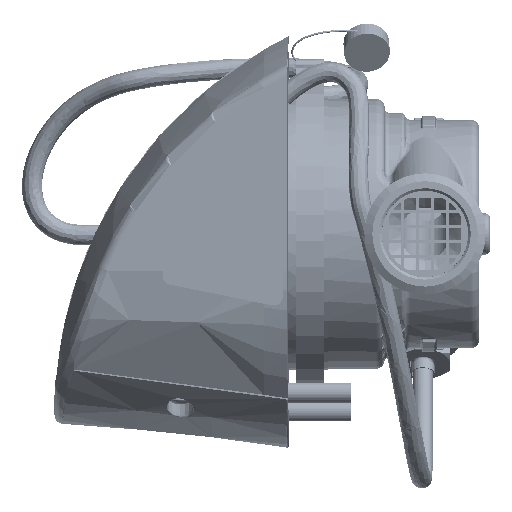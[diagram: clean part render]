
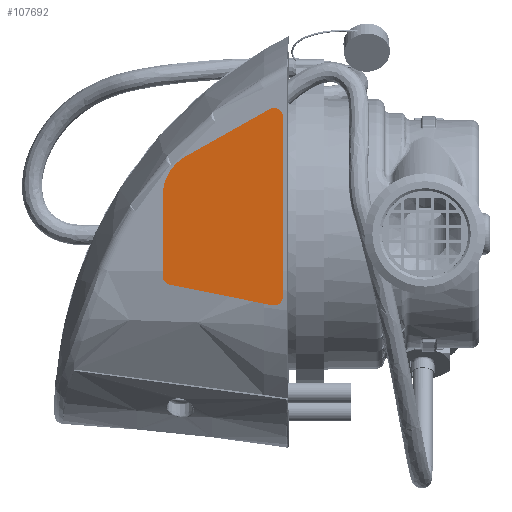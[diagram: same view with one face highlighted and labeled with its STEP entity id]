
A CAD part, left-side view. The second image highlights one B-rep face of the part: STEP entity #107692.
In plain terms, the highlighted planar face has unit normal (-0.995, 0.104, 0).
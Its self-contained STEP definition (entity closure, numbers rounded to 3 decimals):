
#3211 = CARTESIAN_POINT ( 'NONE',  ( -38.431, 47.626, -15.594 ) ) ;
#3502 = DIRECTION ( 'NONE',  ( -0.995, 0.105, 0. ) ) ;
#10259 = EDGE_CURVE ( 'NONE', #190570, #116645, #156012, .T. ) ;
#25447 = CARTESIAN_POINT ( 'NONE',  ( -38.681, 45.245, -13.633 ) ) ;
#36581 = DIRECTION ( 'NONE',  ( 0., 0., 1. ) ) ;
#37037 = ORIENTED_EDGE ( 'NONE', *, *, #180039, .T. ) ;
#37150 = CARTESIAN_POINT ( 'NONE',  ( -35.914, 71.572, -9.122 ) ) ;
#46221 = CIRCLE ( 'NONE', #203092, 10. ) ;
#46988 = CARTESIAN_POINT ( 'NONE',  ( -35.914, 71.572, 8.26 ) ) ;
#48172 = CARTESIAN_POINT ( 'NONE',  ( -36.082, 69.975, -11.083 ) ) ;
#49740 = DIRECTION ( 'NONE',  ( 0., 0., -1. ) ) ;
#51863 = VECTOR ( 'NONE', #273087, 1000. ) ;
#56609 = VERTEX_POINT ( 'NONE', #48172 ) ;
#59841 = EDGE_CURVE ( 'NONE', #116645, #160925, #230360, .T. ) ;
#67554 = AXIS2_PLACEMENT_3D ( 'NONE', #272839, #101354, #250296 ) ;
#70734 = ORIENTED_EDGE ( 'NONE', *, *, #206728, .T. ) ;
#72031 = VERTEX_POINT ( 'NONE', #46988 ) ;
#75050 = CARTESIAN_POINT ( 'NONE',  ( -35.914, 71.572, -9.122 ) ) ;
#81253 = CARTESIAN_POINT ( 'NONE',  ( -38.472, 47.234, -15.633 ) ) ;
#83937 = EDGE_CURVE ( 'NONE', #201308, #151857, #161759, .T. ) ;
#87378 = EDGE_CURVE ( 'NONE', #145840, #56609, #212449, .T. ) ;
#88097 = DIRECTION ( 'NONE',  ( -0.995, 0.105, 0. ) ) ;
#89543 = DIRECTION ( 'NONE',  ( 0., 0., 1. ) ) ;
#93163 = DIRECTION ( 'NONE',  ( -0.102, -0.975, -0.197 ) ) ;
#101354 = DIRECTION ( 'NONE',  ( -0.995, 0.105, 0. ) ) ;
#104401 = LINE ( 'NONE', #37150, #51863 ) ;
#106731 = CARTESIAN_POINT ( 'NONE',  ( -36.45, 66.48, 16.988 ) ) ;
#107692 = ADVANCED_FACE ( 'NONE', ( #216626 ), #109977, .T. ) ;
#108176 = EDGE_LOOP ( 'NONE', ( #70734, #225984, #263126, #37037, #244393, #169724, #274463, #255720, #240986 ) ) ;
#109977 = PLANE ( 'NONE',  #194672 ) ;
#110667 = VECTOR ( 'NONE', #213429, 1000. ) ;
#116645 = VERTEX_POINT ( 'NONE', #246824 ) ;
#128823 = VERTEX_POINT ( 'NONE', #25447 ) ;
#131438 = CIRCLE ( 'NONE', #203162, 2. ) ;
#134018 = LINE ( 'NONE', #263288, #171589 ) ;
#134527 = LINE ( 'NONE', #193463, #207398 ) ;
#141802 = DIRECTION ( 'NONE',  ( -0.995, 0.105, 0. ) ) ;
#145840 = VERTEX_POINT ( 'NONE', #75050 ) ;
#151857 = VERTEX_POINT ( 'NONE', #81253 ) ;
#156012 = CIRCLE ( 'NONE', #178430, 2. ) ;
#158339 = CARTESIAN_POINT ( 'NONE',  ( -38.472, 47.234, 25.516 ) ) ;
#160088 = CARTESIAN_POINT ( 'NONE',  ( -36.123, 69.583, -9.122 ) ) ;
#160925 = VERTEX_POINT ( 'NONE', #186608 ) ;
#161759 = CIRCLE ( 'NONE', #67554, 2. ) ;
#169724 = ORIENTED_EDGE ( 'NONE', *, *, #214569, .T. ) ;
#170366 = CARTESIAN_POINT ( 'NONE',  ( -36.96, 61.627, 8.26 ) ) ;
#171589 = VECTOR ( 'NONE', #93163, 1000. ) ;
#172361 = CARTESIAN_POINT ( 'NONE',  ( -36.96, 61.627, 8.26 ) ) ;
#177754 = CARTESIAN_POINT ( 'NONE',  ( -38.681, 45.245, 25.516 ) ) ;
#178430 = AXIS2_PLACEMENT_3D ( 'NONE', #158339, #249578, #208782 ) ;
#180039 = EDGE_CURVE ( 'NONE', #56609, #201308, #134018, .T. ) ;
#186608 = CARTESIAN_POINT ( 'NONE',  ( -36.45, 66.48, 16.988 ) ) ;
#190570 = VERTEX_POINT ( 'NONE', #177754 ) ;
#191999 = DIRECTION ( 'NONE',  ( 0., 0., 1. ) ) ;
#193463 = CARTESIAN_POINT ( 'NONE',  ( -38.681, 45.245, -13.633 ) ) ;
#194672 = AXIS2_PLACEMENT_3D ( 'NONE', #170366, #256088, #235005 ) ;
#201308 = VERTEX_POINT ( 'NONE', #3211 ) ;
#203092 = AXIS2_PLACEMENT_3D ( 'NONE', #172361, #88097, #191999 ) ;
#203162 = AXIS2_PLACEMENT_3D ( 'NONE', #243524, #3502, #49740 ) ;
#206728 = EDGE_CURVE ( 'NONE', #160925, #72031, #46221, .T. ) ;
#207398 = VECTOR ( 'NONE', #89543, 1000. ) ;
#208782 = DIRECTION ( 'NONE',  ( 0., 0., 1. ) ) ;
#212449 = CIRCLE ( 'NONE', #235540, 2. ) ;
#213429 = DIRECTION ( 'NONE',  ( 0.091, 0.868, -0.488 ) ) ;
#214569 = EDGE_CURVE ( 'NONE', #151857, #128823, #131438, .T. ) ;
#216626 = FACE_OUTER_BOUND ( 'NONE', #108176, .T. ) ;
#225984 = ORIENTED_EDGE ( 'NONE', *, *, #228473, .T. ) ;
#228473 = EDGE_CURVE ( 'NONE', #72031, #145840, #104401, .T. ) ;
#230360 = LINE ( 'NONE', #106731, #110667 ) ;
#235005 = DIRECTION ( 'NONE',  ( 0., 0., 1. ) ) ;
#235540 = AXIS2_PLACEMENT_3D ( 'NONE', #160088, #141802, #36581 ) ;
#237714 = EDGE_CURVE ( 'NONE', #128823, #190570, #134527, .T. ) ;
#240986 = ORIENTED_EDGE ( 'NONE', *, *, #59841, .T. ) ;
#243524 = CARTESIAN_POINT ( 'NONE',  ( -38.472, 47.234, -13.633 ) ) ;
#244393 = ORIENTED_EDGE ( 'NONE', *, *, #83937, .T. ) ;
#246824 = CARTESIAN_POINT ( 'NONE',  ( -38.37, 48.205, 27.262 ) ) ;
#249578 = DIRECTION ( 'NONE',  ( -0.995, 0.105, 0. ) ) ;
#250296 = DIRECTION ( 'NONE',  ( 0., 0., -1. ) ) ;
#255720 = ORIENTED_EDGE ( 'NONE', *, *, #10259, .T. ) ;
#256088 = DIRECTION ( 'NONE',  ( -0.995, 0.105, 0. ) ) ;
#263126 = ORIENTED_EDGE ( 'NONE', *, *, #87378, .T. ) ;
#263288 = CARTESIAN_POINT ( 'NONE',  ( -36.082, 69.975, -11.083 ) ) ;
#272839 = CARTESIAN_POINT ( 'NONE',  ( -38.472, 47.234, -13.633 ) ) ;
#273087 = DIRECTION ( 'NONE',  ( 0., 0., -1. ) ) ;
#274463 = ORIENTED_EDGE ( 'NONE', *, *, #237714, .T. ) ;
